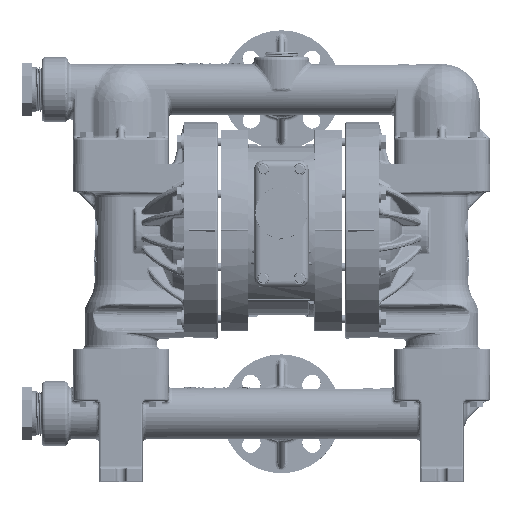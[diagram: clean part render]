
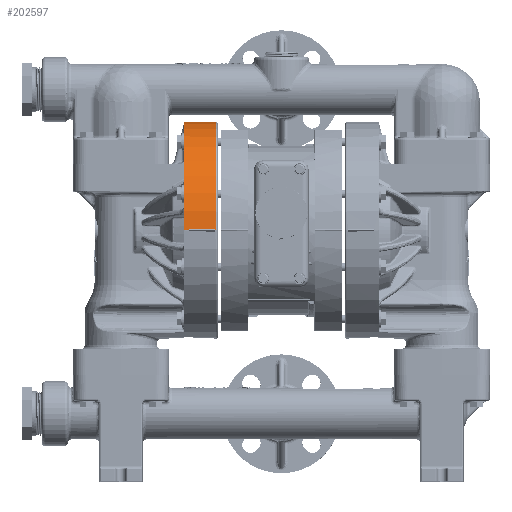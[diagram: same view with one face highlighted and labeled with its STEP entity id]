
A CAD part, top view. The second image highlights one B-rep face of the part: STEP entity #202597.
In plain terms, the highlighted conical face has half-angle 0.5 degrees and reference radius 104.926 mm.
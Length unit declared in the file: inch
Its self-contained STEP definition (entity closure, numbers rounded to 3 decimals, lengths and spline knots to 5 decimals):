
#4971 = CARTESIAN_POINT ( 'NONE',  ( -3.7325, 0., -4.13634 ) ) ;
#4989 = VERTEX_POINT ( 'NONE', #4971 ) ;
#5697 = DIRECTION ( 'NONE',  ( 1., 0., 0. ) ) ;
#6148 = VERTEX_POINT ( 'NONE', #140662 ) ;
#8372 = EDGE_CURVE ( 'NONE', #6148, #259835, #264832, .T. ) ;
#10313 = CARTESIAN_POINT ( 'NONE',  ( -2.64329, 0.04866, -4.12655 ) ) ;
#15279 = AXIS2_PLACEMENT_3D ( 'NONE', #363004, #111076, #240144 ) ;
#28534 = EDGE_CURVE ( 'NONE', #134951, #240055, #103771, .T. ) ;
#29499 = ORIENTED_EDGE ( 'NONE', *, *, #117208, .F. ) ;
#33270 = LINE ( 'NONE', #162351, #58343 ) ;
#36653 = AXIS2_PLACEMENT_3D ( 'NONE', #188297, #154441, #412676 ) ;
#38835 = CONICAL_SURFACE ( 'NONE', #99890, 4.13093, 0.009 ) ;
#42098 = CARTESIAN_POINT ( 'NONE',  ( -3.19842, 0.04376, -4.13145 ) ) ;
#42209 = B_SPLINE_CURVE_WITH_KNOTS ( 'NONE', 3,
 ( #73823, #202959, #42098, #300316, #10313, #236773 ),
 .UNSPECIFIED., .F., .F.,
 ( 4, 1, 1, 4 ),
 ( 0., 0.33333, 0.66667, 1. ),
 .UNSPECIFIED. ) ;
#43382 = EDGE_CURVE ( 'NONE', #120355, #252046, #42209, .T. ) ;
#46489 = EDGE_CURVE ( 'NONE', #189213, #210823, #281108, .T. ) ;
#46773 = CIRCLE ( 'NONE', #283387, 4.12587 ) ;
#51521 = ORIENTED_EDGE ( 'NONE', *, *, #414774, .F. ) ;
#54925 = DIRECTION ( 'NONE',  ( 0., 0.012, -1. ) ) ;
#58343 = VECTOR ( 'NONE', #208701, 39.37008 ) ;
#59095 = ORIENTED_EDGE ( 'NONE', *, *, #293649, .T. ) ;
#59610 = ORIENTED_EDGE ( 'NONE', *, *, #8372, .T. ) ;
#62091 = CARTESIAN_POINT ( 'NONE',  ( -2.5325, 0.04964, -4.12557 ) ) ;
#66889 = DIRECTION ( 'NONE',  ( -1., 0., -0.009 ) ) ;
#68109 = DIRECTION ( 'NONE',  ( -1., 0., -0.009 ) ) ;
#73823 = CARTESIAN_POINT ( 'NONE',  ( -3.5325, 0.04082, -4.1344 ) ) ;
#74612 = DIRECTION ( 'NONE',  ( -1., 0., 0. ) ) ;
#79058 = ORIENTED_EDGE ( 'NONE', *, *, #365842, .T. ) ;
#84829 = CARTESIAN_POINT ( 'NONE',  ( -2.5325, 0.04964, 4.12557 ) ) ;
#94081 = CARTESIAN_POINT ( 'NONE',  ( -3.7325, 0., 4.13634 ) ) ;
#96703 = VERTEX_POINT ( 'NONE', #134784 ) ;
#99890 = AXIS2_PLACEMENT_3D ( 'NONE', #141441, #109724, #340314 ) ;
#103771 = B_SPLINE_CURVE_WITH_KNOTS ( 'NONE', 3,
 ( #280391, #409457, #218978, #119508, #185109, #345948 ),
 .UNSPECIFIED., .F., .F.,
 ( 4, 1, 1, 4 ),
 ( 0., 0.33333, 0.66667, 1. ),
 .UNSPECIFIED. ) ;
#109724 = DIRECTION ( 'NONE',  ( -1., 0., 0. ) ) ;
#111076 = DIRECTION ( 'NONE',  ( -1., 0., 0. ) ) ;
#112617 = CARTESIAN_POINT ( 'NONE',  ( -2.5325, 0., 0. ) ) ;
#115887 = CIRCLE ( 'NONE', #250989, 4.1346 ) ;
#117208 = EDGE_CURVE ( 'NONE', #210823, #4989, #361124, .T. ) ;
#119508 = CARTESIAN_POINT ( 'NONE',  ( -3.19842, 0.04376, 4.13145 ) ) ;
#120218 = DIRECTION ( 'NONE',  ( -1., 0., 0.009 ) ) ;
#120355 = VERTEX_POINT ( 'NONE', #179205 ) ;
#121377 = EDGE_LOOP ( 'NONE', ( #330926, #368831, #79058, #29499, #194169, #303460, #194380, #172968, #279883, #59095, #59610, #51521 ) ) ;
#128566 = DIRECTION ( 'NONE',  ( 0., 0.01, 1. ) ) ;
#134784 = CARTESIAN_POINT ( 'NONE',  ( -3.5325, 0., -4.1346 ) ) ;
#134951 = VERTEX_POINT ( 'NONE', #84829 ) ;
#135820 = VECTOR ( 'NONE', #68109, 39.37008 ) ;
#138069 = CARTESIAN_POINT ( 'NONE',  ( -3.5325, 0.04082, 4.1344 ) ) ;
#140347 = CIRCLE ( 'NONE', #248568, 4.12587 ) ;
#140662 = CARTESIAN_POINT ( 'NONE',  ( -2.49198, 0., -4.12552 ) ) ;
#141441 = CARTESIAN_POINT ( 'NONE',  ( -3.11224, 0., 0. ) ) ;
#151952 = VECTOR ( 'NONE', #66889, 39.37008 ) ;
#154441 = DIRECTION ( 'NONE',  ( -1., 0., 0. ) ) ;
#162351 = CARTESIAN_POINT ( 'NONE',  ( -2.49198, 0., 4.12552 ) ) ;
#162369 = DIRECTION ( 'NONE',  ( 1., 0., 0. ) ) ;
#172968 = ORIENTED_EDGE ( 'NONE', *, *, #243399, .F. ) ;
#179205 = CARTESIAN_POINT ( 'NONE',  ( -3.5325, 0.04082, -4.1344 ) ) ;
#185109 = CARTESIAN_POINT ( 'NONE',  ( -3.42107, 0.0418, 4.13342 ) ) ;
#187644 = CARTESIAN_POINT ( 'NONE',  ( -2.49198, 0., 4.12552 ) ) ;
#188297 = CARTESIAN_POINT ( 'NONE',  ( -3.7325, 0., 0. ) ) ;
#189213 = VERTEX_POINT ( 'NONE', #327276 ) ;
#193075 = VERTEX_POINT ( 'NONE', #339361 ) ;
#194169 = ORIENTED_EDGE ( 'NONE', *, *, #46489, .F. ) ;
#194380 = ORIENTED_EDGE ( 'NONE', *, *, #28534, .F. ) ;
#202597 = ADVANCED_FACE ( 'NONE', ( #209149 ), #38835, .T. ) ;
#202959 = CARTESIAN_POINT ( 'NONE',  ( -3.42107, 0.0418, -4.13342 ) ) ;
#208701 = DIRECTION ( 'NONE',  ( -1., 0., 0.009 ) ) ;
#209149 = FACE_OUTER_BOUND ( 'NONE', #121377, .T. ) ;
#210823 = VERTEX_POINT ( 'NONE', #94081 ) ;
#217533 = VECTOR ( 'NONE', #120218, 39.37008 ) ;
#218978 = CARTESIAN_POINT ( 'NONE',  ( -2.86509, 0.0467, 4.12851 ) ) ;
#222009 = CARTESIAN_POINT ( 'NONE',  ( -2.5325, 0., 0. ) ) ;
#226463 = AXIS2_PLACEMENT_3D ( 'NONE', #291572, #5697, #263914 ) ;
#236773 = CARTESIAN_POINT ( 'NONE',  ( -2.5325, 0.04964, -4.12557 ) ) ;
#237886 = EDGE_CURVE ( 'NONE', #341902, #193075, #33270, .T. ) ;
#240055 = VERTEX_POINT ( 'NONE', #138069 ) ;
#240144 = DIRECTION ( 'NONE',  ( 0., 0., 1. ) ) ;
#243399 = EDGE_CURVE ( 'NONE', #193075, #134951, #46773, .T. ) ;
#248568 = AXIS2_PLACEMENT_3D ( 'NONE', #222009, #319332, #54925 ) ;
#250989 = AXIS2_PLACEMENT_3D ( 'NONE', #395779, #162369, #128566 ) ;
#252046 = VERTEX_POINT ( 'NONE', #62091 ) ;
#259835 = VERTEX_POINT ( 'NONE', #342035 ) ;
#263914 = DIRECTION ( 'NONE',  ( 0., 0., -1. ) ) ;
#264832 = LINE ( 'NONE', #391870, #135820 ) ;
#279883 = ORIENTED_EDGE ( 'NONE', *, *, #237886, .F. ) ;
#280391 = CARTESIAN_POINT ( 'NONE',  ( -2.5325, 0.04964, 4.12557 ) ) ;
#281108 = LINE ( 'NONE', #340367, #217533 ) ;
#283387 = AXIS2_PLACEMENT_3D ( 'NONE', #112617, #74612, #305238 ) ;
#287532 = CIRCLE ( 'NONE', #226463, 4.1346 ) ;
#291572 = CARTESIAN_POINT ( 'NONE',  ( -3.5325, 0., 0. ) ) ;
#293331 = LINE ( 'NONE', #320914, #151952 ) ;
#293649 = EDGE_CURVE ( 'NONE', #341902, #6148, #386652, .T. ) ;
#300316 = CARTESIAN_POINT ( 'NONE',  ( -2.86509, 0.0467, -4.12851 ) ) ;
#301882 = EDGE_CURVE ( 'NONE', #96703, #120355, #287532, .T. ) ;
#303460 = ORIENTED_EDGE ( 'NONE', *, *, #327748, .F. ) ;
#305238 = DIRECTION ( 'NONE',  ( 0., 0., 1. ) ) ;
#319332 = DIRECTION ( 'NONE',  ( -1., 0., 0. ) ) ;
#320914 = CARTESIAN_POINT ( 'NONE',  ( -3.5325, 0., -4.1346 ) ) ;
#327276 = CARTESIAN_POINT ( 'NONE',  ( -3.5325, 0., 4.1346 ) ) ;
#327748 = EDGE_CURVE ( 'NONE', #240055, #189213, #115887, .T. ) ;
#330926 = ORIENTED_EDGE ( 'NONE', *, *, #43382, .F. ) ;
#339361 = CARTESIAN_POINT ( 'NONE',  ( -2.5325, 0., 4.12587 ) ) ;
#340314 = DIRECTION ( 'NONE',  ( 0., 0., 1. ) ) ;
#340367 = CARTESIAN_POINT ( 'NONE',  ( -3.5325, 0., 4.1346 ) ) ;
#341902 = VERTEX_POINT ( 'NONE', #187644 ) ;
#342035 = CARTESIAN_POINT ( 'NONE',  ( -2.5325, 0., -4.12587 ) ) ;
#345948 = CARTESIAN_POINT ( 'NONE',  ( -3.5325, 0.04082, 4.1344 ) ) ;
#361124 = CIRCLE ( 'NONE', #36653, 4.13634 ) ;
#363004 = CARTESIAN_POINT ( 'NONE',  ( -2.49198, 0., 0. ) ) ;
#365842 = EDGE_CURVE ( 'NONE', #96703, #4989, #293331, .T. ) ;
#368831 = ORIENTED_EDGE ( 'NONE', *, *, #301882, .F. ) ;
#386652 = CIRCLE ( 'NONE', #15279, 4.12552 ) ;
#391870 = CARTESIAN_POINT ( 'NONE',  ( -2.49198, 0., -4.12552 ) ) ;
#395779 = CARTESIAN_POINT ( 'NONE',  ( -3.5325, 0., 0. ) ) ;
#409457 = CARTESIAN_POINT ( 'NONE',  ( -2.64329, 0.04866, 4.12655 ) ) ;
#412676 = DIRECTION ( 'NONE',  ( 0., 0., 1. ) ) ;
#414774 = EDGE_CURVE ( 'NONE', #252046, #259835, #140347, .T. ) ;
